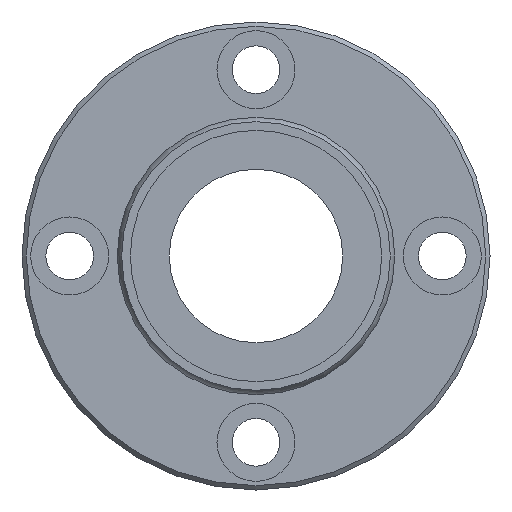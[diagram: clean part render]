
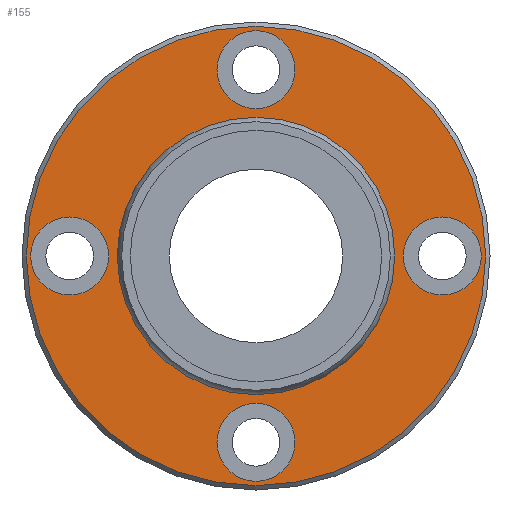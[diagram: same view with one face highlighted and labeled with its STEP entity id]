
A CAD part, left-side view. The second image highlights one B-rep face of the part: STEP entity #155.
In plain terms, the highlighted planar face has unit normal (-1, 0, 0).
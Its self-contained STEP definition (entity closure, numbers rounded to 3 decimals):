
#60=CARTESIAN_POINT('',(41.5,0.,26.5));
#61=VERTEX_POINT('',#60);
#62=CARTESIAN_POINT('',(41.5,0.0,0.0));
#63=DIRECTION('',(1.0,0.0,0.0));
#64=DIRECTION('',(0.0,0.0,-1.0));
#65=AXIS2_PLACEMENT_3D('',#62,#63,#64);
#66=CIRCLE('',#65,26.5);
#67=EDGE_CURVE('',#61,#61,#66,.T.);
#92=CARTESIAN_POINT('',(41.5,0.0,21.387));
#93=DIRECTION('',(-1.0,0.0,0.0));
#94=DIRECTION('',(0.0,0.0,1.0));
#95=AXIS2_PLACEMENT_3D('',#92,#93,#94);
#96=PLANE('',#95);
#97=ORIENTED_EDGE('',*,*,#67,.F.);
#98=EDGE_LOOP('',(#97));
#99=FACE_OUTER_BOUND('',#98,.T.);
#100=CARTESIAN_POINT('',(41.5,0.0,15.773));
#101=VERTEX_POINT('',#100);
#102=CARTESIAN_POINT('',(41.5,0.0,0.0));
#103=DIRECTION('',(-1.0,0.0,0.0));
#104=DIRECTION('',(0.0,0.0,1.0));
#105=AXIS2_PLACEMENT_3D('',#102,#103,#104);
#106=CIRCLE('',#105,15.773);
#107=EDGE_CURVE('',#101,#101,#106,.T.);
#108=ORIENTED_EDGE('',*,*,#107,.F.);
#109=EDGE_LOOP('',(#108));
#110=FACE_BOUND('',#109,.T.);
#111=CARTESIAN_POINT('',(41.5,-17.0,0.));
#112=VERTEX_POINT('',#111);
#113=CARTESIAN_POINT('',(41.5,-21.5,0.));
#114=DIRECTION('',(1.0,0.0,0.0));
#115=DIRECTION('',(0.0,1.0,0.0));
#116=AXIS2_PLACEMENT_3D('',#113,#114,#115);
#117=CIRCLE('',#116,4.5);
#118=EDGE_CURVE('',#112,#112,#117,.T.);
#119=ORIENTED_EDGE('',*,*,#118,.T.);
#120=EDGE_LOOP('',(#119));
#121=FACE_BOUND('',#120,.T.);
#122=CARTESIAN_POINT('',(41.5,26.0,0.));
#123=VERTEX_POINT('',#122);
#124=CARTESIAN_POINT('',(41.5,21.5,0.));
#125=DIRECTION('',(1.0,0.0,0.0));
#126=DIRECTION('',(0.0,1.0,0.0));
#127=AXIS2_PLACEMENT_3D('',#124,#125,#126);
#128=CIRCLE('',#127,4.5);
#129=EDGE_CURVE('',#123,#123,#128,.T.);
#130=ORIENTED_EDGE('',*,*,#129,.T.);
#131=EDGE_LOOP('',(#130));
#132=FACE_BOUND('',#131,.T.);
#133=CARTESIAN_POINT('',(41.5,4.5,21.5));
#134=VERTEX_POINT('',#133);
#135=CARTESIAN_POINT('',(41.5,0.,21.5));
#136=DIRECTION('',(1.0,0.0,0.0));
#137=DIRECTION('',(0.0,1.0,0.0));
#138=AXIS2_PLACEMENT_3D('',#135,#136,#137);
#139=CIRCLE('',#138,4.5);
#140=EDGE_CURVE('',#134,#134,#139,.T.);
#141=ORIENTED_EDGE('',*,*,#140,.T.);
#142=EDGE_LOOP('',(#141));
#143=FACE_BOUND('',#142,.T.);
#144=CARTESIAN_POINT('',(41.5,4.5,-21.5));
#145=VERTEX_POINT('',#144);
#146=CARTESIAN_POINT('',(41.5,0.,-21.5));
#147=DIRECTION('',(1.0,0.0,0.0));
#148=DIRECTION('',(0.0,1.0,0.0));
#149=AXIS2_PLACEMENT_3D('',#146,#147,#148);
#150=CIRCLE('',#149,4.5);
#151=EDGE_CURVE('',#145,#145,#150,.T.);
#152=ORIENTED_EDGE('',*,*,#151,.T.);
#153=EDGE_LOOP('',(#152));
#154=FACE_BOUND('',#153,.T.);
#155=ADVANCED_FACE('',(#99,#110,#121,#132,#143,#154),#96,.T.);
